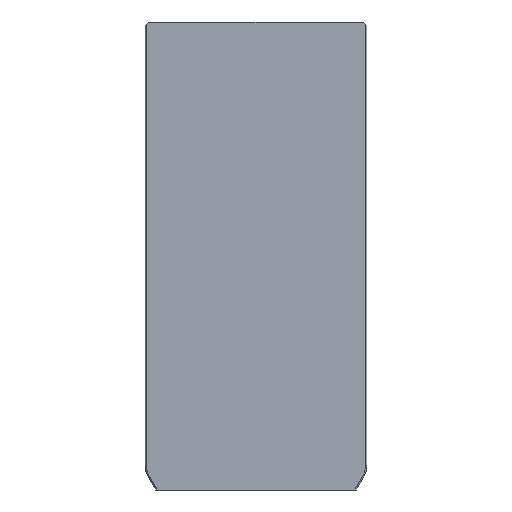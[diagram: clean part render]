
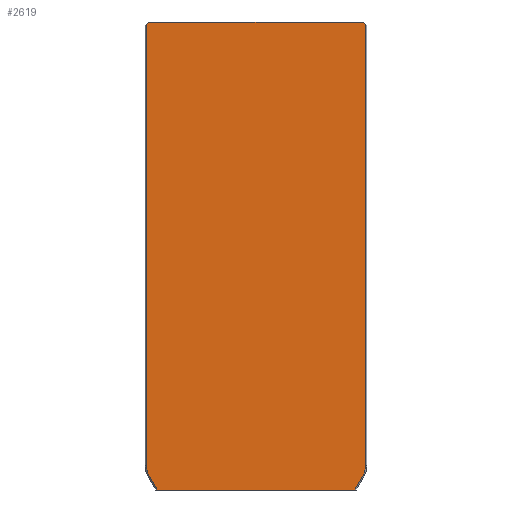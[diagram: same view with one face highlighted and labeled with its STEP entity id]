
A CAD part, left-side view. The second image highlights one B-rep face of the part: STEP entity #2619.
In plain terms, the highlighted planar face has unit normal (-1, 0, 0).
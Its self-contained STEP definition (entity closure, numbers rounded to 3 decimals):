
#271=VERTEX_POINT(' ',#272);
#272=CARTESIAN_POINT('',(-60.,87.,0.));
#273=VERTEX_POINT(' ',#274);
#274=CARTESIAN_POINT('',(-60.,-87.,0.));
#285=VERTEX_POINT(' ',#286);
#286=CARTESIAN_POINT('',(-60.,89.,-2.));
#295=VERTEX_POINT(' ',#296);
#296=CARTESIAN_POINT('',(-60.,89.,-180.));
#297=VERTEX_POINT(' ',#298);
#298=CARTESIAN_POINT('',(-60.,89.,-359.641));
#299=VERTEX_POINT(' ',#300);
#300=CARTESIAN_POINT('',(-60.,86.454,-369.141));
#301=VERTEX_POINT(' ',#302);
#302=CARTESIAN_POINT('',(-60.,80.185,-380.));
#305=VERTEX_POINT(' ',#306);
#306=CARTESIAN_POINT('',(-60.,-80.185,-380.));
#315=VERTEX_POINT(' ',#316);
#316=CARTESIAN_POINT('',(-60.,-89.,-2.));
#317=VERTEX_POINT(' ',#318);
#318=CARTESIAN_POINT('',(-60.,-86.454,-369.141));
#319=VERTEX_POINT(' ',#320);
#320=CARTESIAN_POINT('',(-60.,-89.,-359.641));
#321=VERTEX_POINT(' ',#322);
#322=CARTESIAN_POINT('',(-60.,-89.,-180.));
#1122=LINE('',#1123,#1124);
#1123=CARTESIAN_POINT('',(-60.,90.12,0.));
#1124=VECTOR('',#1125,1.);
#1125=DIRECTION('',(0.,-1.,0.));
#1126=EDGE_CURVE(' ',#271,#273,#1122,.T.);
#1192=LINE('',#1193,#1194);
#1193=CARTESIAN_POINT('',(-60.,43.5,43.5));
#1194=VECTOR('',#1195,1.);
#1195=DIRECTION('',(0.,0.707,-0.707));
#1196=EDGE_CURVE(' ',#285,#271,#1192,.F.);
#1248=LINE('',#1249,#1250);
#1249=CARTESIAN_POINT('',(-60.,89.,-180.));
#1250=VECTOR('',#1251,1.);
#1251=DIRECTION('',(0.,0.,1.));
#1252=EDGE_CURVE(' ',#295,#285,#1248,.T.);
#1258=LINE('',#1259,#1260);
#1259=CARTESIAN_POINT('',(-60.,89.,-359.641));
#1260=VECTOR('',#1261,1.);
#1261=DIRECTION('',(0.,0.,1.));
#1262=EDGE_CURVE(' ',#297,#295,#1258,.T.);
#1268=CIRCLE('',#1269,19.);
#1269=AXIS2_PLACEMENT_3D('',#1270,#1271,#1272);
#1270=CARTESIAN_POINT('',(-60.,70.,-359.641));
#1271=DIRECTION('',(1.,0.,0.));
#1272=DIRECTION('',(0.,-0.966,0.259));
#1273=EDGE_CURVE(' ',#299,#297,#1268,.T.);
#1279=LINE('',#1280,#1281);
#1280=CARTESIAN_POINT('',(-60.,77.645,-384.399));
#1281=VECTOR('',#1282,1.);
#1282=DIRECTION('',(0.,0.5,0.866));
#1283=EDGE_CURVE(' ',#301,#299,#1279,.T.);
#1289=LINE('',#1290,#1291);
#1290=CARTESIAN_POINT('',(-60.,90.12,-380.));
#1291=VECTOR('',#1292,1.);
#1292=DIRECTION('',(0.,-1.,0.));
#1293=EDGE_CURVE(' ',#305,#301,#1289,.F.);
#1345=LINE('',#1346,#1347);
#1346=CARTESIAN_POINT('',(-60.,-43.5,43.5));
#1347=VECTOR('',#1348,1.);
#1348=DIRECTION('',(0.,0.707,0.707));
#1349=EDGE_CURVE(' ',#273,#315,#1345,.F.);
#1350=LINE('',#1351,#1352);
#1351=CARTESIAN_POINT('',(-60.,-86.454,-369.141));
#1352=VECTOR('',#1353,1.);
#1353=DIRECTION('',(0.,0.5,-0.866));
#1354=EDGE_CURVE(' ',#317,#305,#1350,.T.);
#1355=CIRCLE('',#1356,19.);
#1356=AXIS2_PLACEMENT_3D('',#1357,#1358,#1359);
#1357=CARTESIAN_POINT('',(-60.,-70.,-359.641));
#1358=DIRECTION('',(1.,0.,0.));
#1359=DIRECTION('',(0.,0.966,0.259));
#1360=EDGE_CURVE(' ',#319,#317,#1355,.T.);
#1361=LINE('',#1362,#1363);
#1362=CARTESIAN_POINT('',(-60.,-89.,-180.));
#1363=VECTOR('',#1364,1.);
#1364=DIRECTION('',(0.,0.,-1.));
#1365=EDGE_CURVE(' ',#321,#319,#1361,.T.);
#1366=LINE('',#1367,#1368);
#1367=CARTESIAN_POINT('',(-60.,-89.,2.657));
#1368=VECTOR('',#1369,1.);
#1369=DIRECTION('',(0.,0.,-1.));
#1370=EDGE_CURVE(' ',#315,#321,#1366,.T.);
#2600=ORIENTED_EDGE('',*,*,#1354,.F.);
#2601=ORIENTED_EDGE('',*,*,#1360,.F.);
#2602=ORIENTED_EDGE('',*,*,#1365,.F.);
#2603=ORIENTED_EDGE('',*,*,#1370,.F.);
#2604=ORIENTED_EDGE('',*,*,#1349,.F.);
#2605=ORIENTED_EDGE('',*,*,#1126,.F.);
#2606=ORIENTED_EDGE('',*,*,#1196,.F.);
#2607=ORIENTED_EDGE('',*,*,#1252,.F.);
#2608=ORIENTED_EDGE('',*,*,#1262,.F.);
#2609=ORIENTED_EDGE('',*,*,#1273,.F.);
#2610=ORIENTED_EDGE('',*,*,#1283,.F.);
#2611=ORIENTED_EDGE('',*,*,#1293,.F.);
#2612=EDGE_LOOP('',(#2600,#2601,#2602,#2603,#2604,#2605,#2606,#2607,#2608,#2609,#2610,#2611));
#2613=FACE_OUTER_BOUND('',#2612,.T.);
#2614=PLANE('',#2615);
#2615=AXIS2_PLACEMENT_3D('',#2616,#2617,#2618);
#2616=CARTESIAN_POINT('',(-60.,0.,0.));
#2617=DIRECTION('',(-1.,0.,0.));
#2618=DIRECTION('',(0.,0.,-1.));
#2619=ADVANCED_FACE('',(#2613),#2614,.T.);
